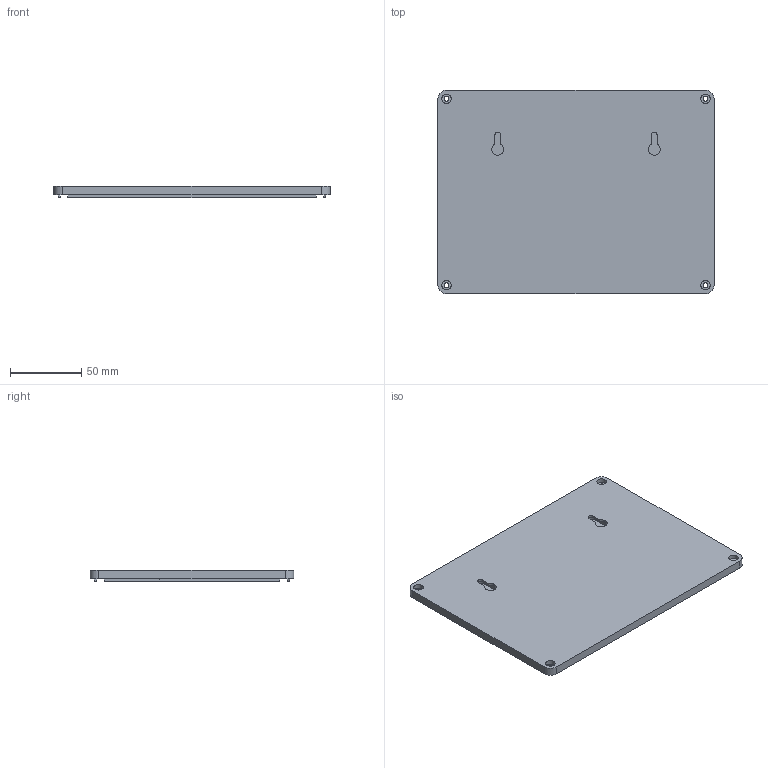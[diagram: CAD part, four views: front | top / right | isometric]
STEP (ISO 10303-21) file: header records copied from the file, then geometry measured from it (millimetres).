
FILE_DESCRIPTION(('Open CASCADE Model'),'2;1');
FILE_NAME('Open CASCADE Shape Model','2026-11-15T10:52:12',('Author'),( 'Open CASCADE'),'Open CASCADE STEP processor 7.8','Open CASCADE 7.8' ,'Unknown');
FILE_SCHEMA(('AUTOMOTIVE_DESIGN { 1 0 10303 214 1 1 1 1 }'));
Length unit declared in the file: millimetre
Products named in the file (1): Open CASCADE STEP translator 7.8 2
Bounding box: 194.2 x 143.2 x 7.8 mm (x, y, z)
Volume: 166631.5 mm3; surface area: 62627.2 mm2
Topology: 1 solids, 1 shells, 63 faces, 153 edges, 102 vertices
Faces by surface type: plane 37, cylinder 26
Full cylindrical faces by diameter (mm): 3.4 x4, 6.6 x4
Entity records: 3920 total; most frequent: CARTESIAN_POINT 709, DIRECTION 629, LINE 347, VECTOR 347, ORIENTED_EDGE 306, PCURVE 306, DEFINITIONAL_REPRESENTATION 306, EDGE_CURVE 153
